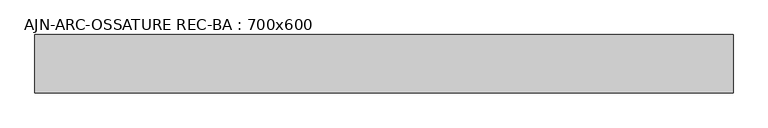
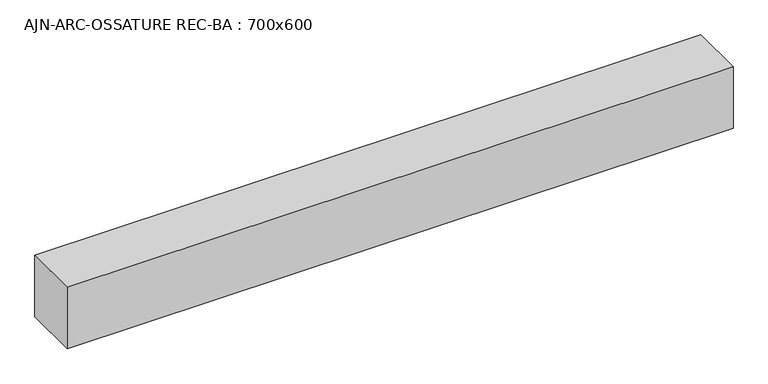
"""IFC4 building model written with IfcOpenShell, lengths in millimetres: beam geometry, AJN-ARC-OSSATURE REC-BA : 700x600."""

from ifc_helpers import new_model, si_unit, frame, origin, place, context, project, spatial, polyline, outline, extrude, source, transform, mapped, element, save


def ajn_arc_ossature_rec_ba_700x600_f6f9d959(model_context):
    return source(origin(), model_context, "Body", "SweptSolid", [
        extrude(outline(polyline([(3900.0, 300.0), (3900.0, -300.0), (-3287.3, -300.0), (-3287.3, 300.0), (3900.0, 300.0)])), frame((0.0, 0.0, -350.0), z_axis=(0.0, 0.0, 1.0), x_axis=(1.0, 0.0, 0.0)), (0.0, 0.0, 1.0), 700.0),
    ])


if __name__ == "__main__":
    model = new_model("IFC4")
    model_context = context("Model", 3, world=origin())
    ifc_project = project(units=[si_unit("LENGTHUNIT", "METRE", prefix="MILLI")], contexts=[model_context])
    site = spatial("IfcSite", under=ifc_project)
    building = spatial("IfcBuilding", under=site)
    placement = place(None, origin())
    ajn_arc_ossature_rec_ba_700x600_shape = ajn_arc_ossature_rec_ba_700x600_f6f9d959(model_context)
    element("IfcBeam", 1, ObjectType="AJN-ARC-OSSATURE REC-BA : 700x600", at=placement, inside=building, context=model_context, shape_type="MappedRepresentation", body=[
        mapped(ajn_arc_ossature_rec_ba_700x600_shape, transform((0.0, 0.0, 0.0), x_axis=(1.0, 0.0, 0.0), y_axis=(0.0, 1.0, 0.0), z_axis=(0.0, 0.0, 1.0))),
    ])
    save(model, "model.ifc")
